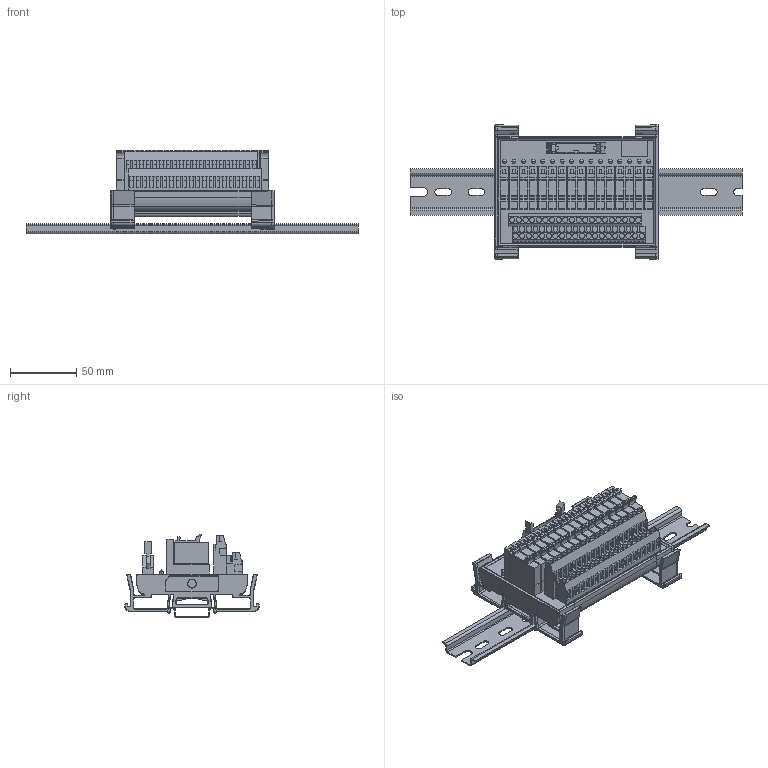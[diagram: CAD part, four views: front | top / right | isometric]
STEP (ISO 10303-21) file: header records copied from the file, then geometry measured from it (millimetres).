
FILE_DESCRIPTION((''),'2;1');
FILE_NAME('10001385839_ASM','2020-07-28T11:17:27',('SEminovi'),('Rockwell Automation'),'CREO PARAMETRIC BY PTC INC, 2019444','CREO PARAMETRIC BY PTC INC, 2019444','');
FILE_SCHEMA(('CONFIG_CONTROL_DESIGN'));
Products named in the file (9): 10001385837; 41164-2211216501; 10001385838; 41164-2483024401; 41164-CONNECT20; 10000984545; 10001374102; 40760-041-DETAIL; 10001385839_ASM
Assembly tree (39 placements, depth 2):
  10001385839_ASM
    10001385837
    41164-2211216501
    10001385838  x16
    41164-2483024401  x16
    41164-CONNECT20
    10000984545  x2
    10001374102
    40760-041-DETAIL
Bounding box: 250 x 100.98 x 62.55 mm (x, y, z)
Volume: 211111.7 mm3; surface area: 174402.8 mm2
Topology: 71 solids, 77 shells, 3036 faces, 7434 edges, 4586 vertices
Faces by surface type: plane 1784, cylinder 808, bspline 352, sphere 60, cone 16, torus 16
Entity records: 58555 total; most frequent: CARTESIAN_POINT 20342, ORIENTED_EDGE 8130, DIRECTION 7356, EDGE_CURVE 4081, VECTOR 2942, LINE 2942, VERTEX_POINT 2531, AXIS2_PLACEMENT_3D 2207
